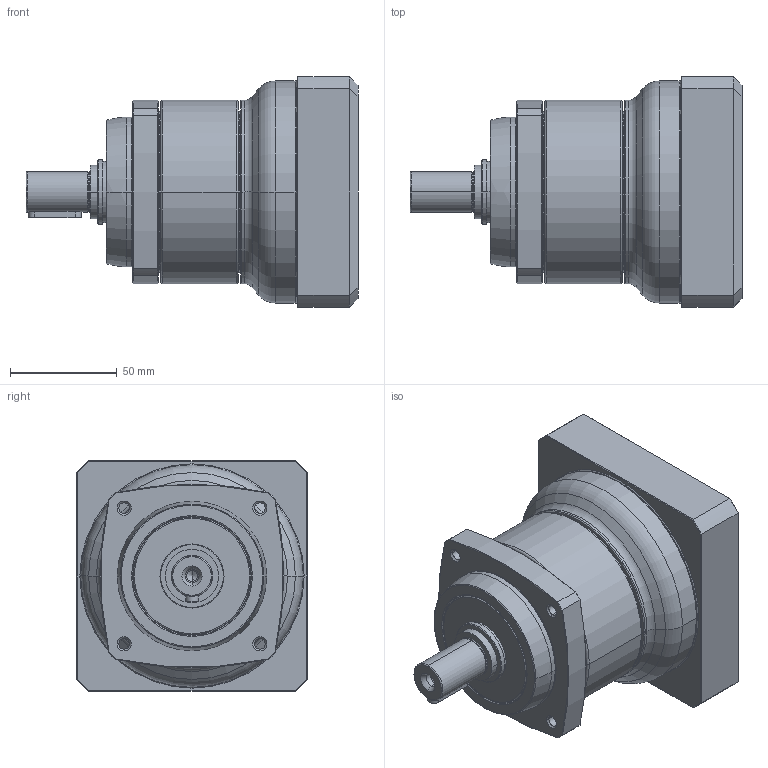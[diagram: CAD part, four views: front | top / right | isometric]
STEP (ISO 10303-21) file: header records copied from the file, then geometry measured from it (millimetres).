
FILE_DESCRIPTION((''),'2;1');
FILE_NAME('PS2-C_1ST_28-P0411600101_ASM','2016-05-19T',('d01943'),(''),'PRO/ENGINEER BY PARAMETRIC TECHNOLOGY CORPORATION, 2008410','PRO/ENGINEER BY PARAMETRIC TECHNOLOGY CORPORATION, 2008410','');
FILE_SCHEMA(('CONFIG_CONTROL_DESIGN'));
Length unit declared in the file: millimetre
Products named in the file (9): P1328310001; P0250300001; P1324300301; P0350301401; P0941303001; P0503600008; P0411600101; P1702500001; PS2-C_1ST_28-P0411600101_ASM
Assembly tree (8 placements, depth 2):
  PS2-C_1ST_28-P0411600101_ASM
    P1328310001
    P0250300001
    P1324300301
    P0350301401
    P0941303001
    P0503600008
    P0411600101
    P1702500001
Bounding box: 155.5 x 108 x 108 mm (x, y, z)
Volume: 627032.4 mm3; surface area: 153276.4 mm2
Topology: 8 solids, 8 shells, 478 faces, 1044 edges, 606 vertices
Faces by surface type: cone 152, cylinder 141, torus 88, plane 79, bspline 18
Entity records: 17808 total; most frequent: CARTESIAN_POINT 7031, DIRECTION 2454, ORIENTED_EDGE 2048, AXIS2_PLACEMENT_3D 1058, EDGE_CURVE 1024, VERTEX_POINT 606, CIRCLE 581, EDGE_LOOP 546
